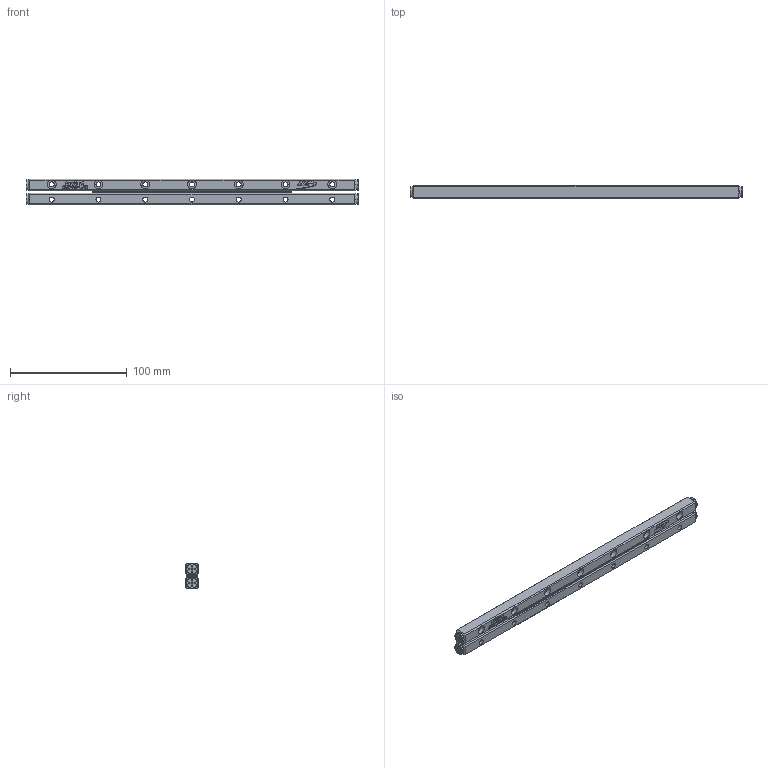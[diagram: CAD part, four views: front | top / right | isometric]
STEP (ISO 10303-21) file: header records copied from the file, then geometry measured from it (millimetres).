
FILE_DESCRIPTION (( 'STEP AP203' ), '1' );
FILE_NAME ('GRV04-280.STEP', '2024-02-20T07:09:22', ( '' ), ( '' ), 'SwSTEP 2.0', 'SolidWorks 2019', '' );
FILE_SCHEMA (( 'CONFIG_CONTROL_DESIGN' ));
Length unit declared in the file: millimetre
Products named in the file (3): GRV04-280-模糊化軌道; GRV04-280; GRV04-280-模糊化保持器組
Assembly tree (3 placements, depth 2):
  GRV04-280
    GRV04-280-模糊化軌道  x2
    GRV04-280-模糊化保持器組
Bounding box: 284 x 11 x 22 mm (x, y, z)
Volume: 56560.2 mm3; surface area: 30979.4 mm2
Topology: 3 solids, 3 shells, 1282 faces, 3268 edges, 2120 vertices
Faces by surface type: plane 782, cylinder 274, bspline 134, torus 56, cone 36
Full cylindrical faces by diameter (mm): 4.3 x14, 7.5 x14, 9.3 x4
Entity records: 31708 total; most frequent: CARTESIAN_POINT 10948, ORIENTED_EDGE 4638, DIRECTION 3662, EDGE_CURVE 2319, VERTEX_POINT 1523, LINE 1292, VECTOR 1292, AXIS2_PLACEMENT_3D 1185
